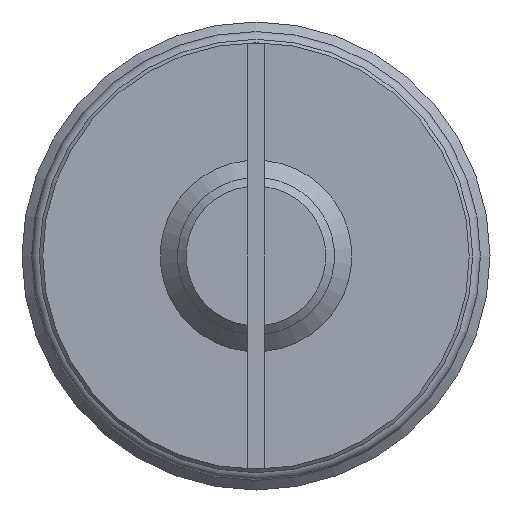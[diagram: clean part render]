
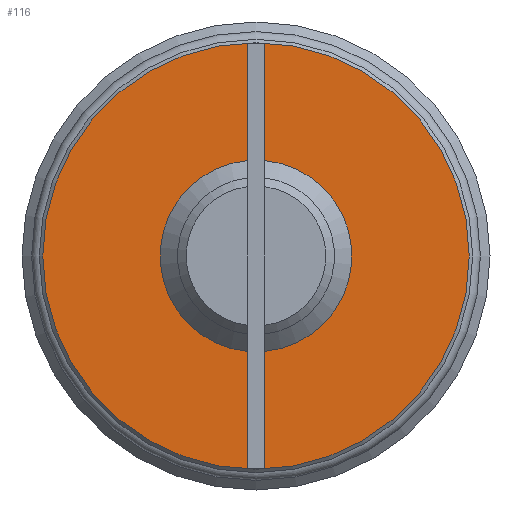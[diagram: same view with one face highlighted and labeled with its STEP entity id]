
A CAD part, left-side view. The second image highlights one B-rep face of the part: STEP entity #116.
In plain terms, the highlighted planar face has unit normal (-1, 0, 0).
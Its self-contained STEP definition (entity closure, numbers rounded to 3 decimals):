
#116 = ADVANCED_FACE( '', ( #265, #266 ), #267, .F. );
#265 = FACE_OUTER_BOUND( '', #450, .T. );
#266 = FACE_BOUND( '', #451, .T. );
#267 = PLANE( '', #452 );
#450 = EDGE_LOOP( '', ( #717 ) );
#451 = EDGE_LOOP( '', ( #718, #719, #720, #721, #722, #723, #724, #725 ) );
#452 = AXIS2_PLACEMENT_3D( '', #726, #727, #728 );
#717 = ORIENTED_EDGE( '', *, *, #1070, .F. );
#718 = ORIENTED_EDGE( '', *, *, #1012, .T. );
#719 = ORIENTED_EDGE( '', *, *, #1072, .T. );
#720 = ORIENTED_EDGE( '', *, *, #1073, .T. );
#721 = ORIENTED_EDGE( '', *, *, #1074, .T. );
#722 = ORIENTED_EDGE( '', *, *, #1075, .T. );
#723 = ORIENTED_EDGE( '', *, *, #1076, .T. );
#724 = ORIENTED_EDGE( '', *, *, #1007, .T. );
#725 = ORIENTED_EDGE( '', *, *, #1077, .T. );
#726 = CARTESIAN_POINT( '', ( 0., 0., 0. ) );
#727 = DIRECTION( '', ( 1., 0., 0. ) );
#728 = DIRECTION( '', ( 0., 0., -1. ) );
#1007 = EDGE_CURVE( '', #1185, #1186, #1187, .T. );
#1012 = EDGE_CURVE( '', #1194, #1195, #1196, .T. );
#1070 = EDGE_CURVE( '', #1286, #1286, #1287, .T. );
#1072 = EDGE_CURVE( '', #1195, #1289, #1290, .T. );
#1073 = EDGE_CURVE( '', #1289, #1291, #1292, .T. );
#1074 = EDGE_CURVE( '', #1291, #1293, #1294, .T. );
#1075 = EDGE_CURVE( '', #1293, #1295, #1296, .T. );
#1076 = EDGE_CURVE( '', #1295, #1185, #1297, .T. );
#1077 = EDGE_CURVE( '', #1186, #1194, #1298, .T. );
#1185 = VERTEX_POINT( '', #1442 );
#1186 = VERTEX_POINT( '', #1443 );
#1187 = LINE( '', #1444, #1445 );
#1194 = VERTEX_POINT( '', #1455 );
#1195 = VERTEX_POINT( '', #1456 );
#1196 = CIRCLE( '', #1457, 5.53 );
#1286 = VERTEX_POINT( '', #1589 );
#1287 = CIRCLE( '', #1590, 12.3 );
#1289 = VERTEX_POINT( '', #1592 );
#1290 = LINE( '', #1593, #1594 );
#1291 = VERTEX_POINT( '', #1595 );
#1292 = LINE( '', #1596, #1597 );
#1293 = VERTEX_POINT( '', #1598 );
#1294 = LINE( '', #1599, #1600 );
#1295 = VERTEX_POINT( '', #1601 );
#1296 = CIRCLE( '', #1602, 5.53 );
#1297 = LINE( '', #1603, #1604 );
#1298 = LINE( '', #1605, #1606 );
#1442 = CARTESIAN_POINT( '', ( 0., 0.5, 12.25 ) );
#1443 = CARTESIAN_POINT( '', ( 0., -0.5, 12.25 ) );
#1444 = CARTESIAN_POINT( '', ( 0., 0.5, 12.25 ) );
#1445 = VECTOR( '', #1758, 1000. );
#1455 = CARTESIAN_POINT( '', ( 0., -0.5, 5.507 ) );
#1456 = CARTESIAN_POINT( '', ( 0., -0.5, -5.507 ) );
#1457 = AXIS2_PLACEMENT_3D( '', #1762, #1763, #1764 );
#1589 = CARTESIAN_POINT( '', ( 0., 0., -12.3 ) );
#1590 = AXIS2_PLACEMENT_3D( '', #1828, #1829, #1830 );
#1592 = CARTESIAN_POINT( '', ( 0., -0.5, -12.25 ) );
#1593 = CARTESIAN_POINT( '', ( 0., -0.5, 12.25 ) );
#1594 = VECTOR( '', #1831, 1000. );
#1595 = CARTESIAN_POINT( '', ( 0., 0.5, -12.25 ) );
#1596 = CARTESIAN_POINT( '', ( 0., -0.5, -12.25 ) );
#1597 = VECTOR( '', #1832, 1000. );
#1598 = CARTESIAN_POINT( '', ( 0., 0.5, -5.507 ) );
#1599 = CARTESIAN_POINT( '', ( 0., 0.5, -12.25 ) );
#1600 = VECTOR( '', #1833, 1000. );
#1601 = CARTESIAN_POINT( '', ( 0., 0.5, 5.507 ) );
#1602 = AXIS2_PLACEMENT_3D( '', #1834, #1835, #1836 );
#1603 = CARTESIAN_POINT( '', ( 0., 0.5, -12.25 ) );
#1604 = VECTOR( '', #1837, 1000. );
#1605 = CARTESIAN_POINT( '', ( 0., -0.5, 12.25 ) );
#1606 = VECTOR( '', #1838, 1000. );
#1758 = DIRECTION( '', ( 0., -1., 0. ) );
#1762 = CARTESIAN_POINT( '', ( 0., 0., 0. ) );
#1763 = DIRECTION( '', ( 1., 0., 0. ) );
#1764 = DIRECTION( '', ( 0., 0., -1. ) );
#1828 = CARTESIAN_POINT( '', ( 0., 0., 0. ) );
#1829 = DIRECTION( '', ( 1., 0., 0. ) );
#1830 = DIRECTION( '', ( 0., 0., -1. ) );
#1831 = DIRECTION( '', ( 0., 0., -1. ) );
#1832 = DIRECTION( '', ( 0., 1., 0. ) );
#1833 = DIRECTION( '', ( 0., 0., 1. ) );
#1834 = CARTESIAN_POINT( '', ( 0., 0., 0. ) );
#1835 = DIRECTION( '', ( 1., 0., 0. ) );
#1836 = DIRECTION( '', ( 0., 0., -1. ) );
#1837 = DIRECTION( '', ( 0., 0., 1. ) );
#1838 = DIRECTION( '', ( 0., 0., -1. ) );
